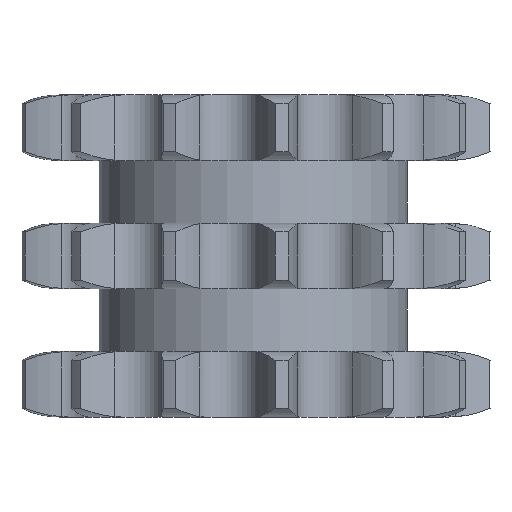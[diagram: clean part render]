
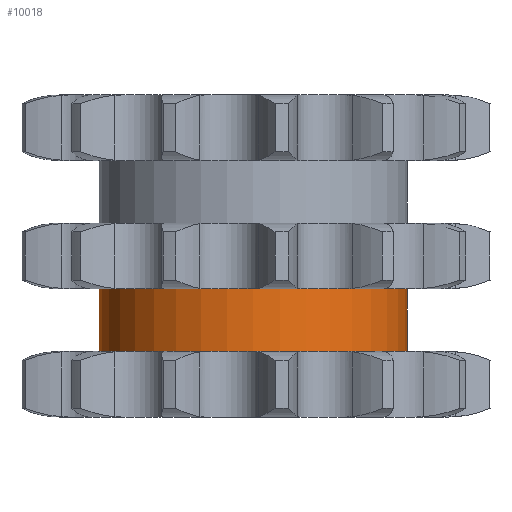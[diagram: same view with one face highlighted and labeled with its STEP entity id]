
A CAD part, left-side view. The second image highlights one B-rep face of the part: STEP entity #10018.
In plain terms, the highlighted cylindrical face has radius 38.068 mm (diameter 76.136 mm), a partial arc.
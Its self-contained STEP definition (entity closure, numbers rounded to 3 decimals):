
#2405=DIRECTION('',(0.,0.,-1.));
#2406=VECTOR('',#2405,15.5);
#2407=CARTESIAN_POINT('',(0.,38.068,-8.1));
#2408=LINE('',#2407,#2406);
#2412=CARTESIAN_POINT('',(0.,0.,-8.1));
#2413=DIRECTION('',(0.,0.,1.));
#2414=DIRECTION('',(0.,1.,0.));
#2415=AXIS2_PLACEMENT_3D('',#2412,#2413,#2414);
#2420=DIRECTION('',(0.,0.,-1.));
#2421=VECTOR('',#2420,15.5);
#2422=CARTESIAN_POINT('',(0.,-38.068,-8.1));
#2423=LINE('',#2422,#2421);
#2427=CARTESIAN_POINT('',(0.,0.,-23.6));
#2428=DIRECTION('',(0.,0.,1.));
#2429=DIRECTION('',(0.,1.,0.));
#2430=AXIS2_PLACEMENT_3D('',#2427,#2428,#2429);
#7482=CARTESIAN_POINT('',(0.,38.068,-8.1));
#7483=CARTESIAN_POINT('',(0.,38.068,-23.6));
#7484=VERTEX_POINT('',#7482);
#7485=VERTEX_POINT('',#7483);
#7486=CARTESIAN_POINT('',(0.,-38.068,-8.1));
#7487=CARTESIAN_POINT('',(0.,-38.068,-23.6));
#7488=VERTEX_POINT('',#7486);
#7489=VERTEX_POINT('',#7487);
#10006=CARTESIAN_POINT('',(0.,0.,25.96));
#10007=DIRECTION('',(0.,0.,-1.));
#10008=DIRECTION('',(0.,-1.,0.));
#10009=AXIS2_PLACEMENT_3D('',#10006,#10007,#10008);
#10010=CYLINDRICAL_SURFACE('',#10009,38.068);
#10011=ORIENTED_EDGE('',*,*,#9996,.F.);
#10012=ORIENTED_EDGE('',*,*,#9986,.T.);
#10013=ORIENTED_EDGE('',*,*,#10000,.T.);
#10015=ORIENTED_EDGE('',*,*,#10014,.F.);
#10016=EDGE_LOOP('',(#10011,#10012,#10013,#10015));
#10017=FACE_OUTER_BOUND('',#10016,.F.);
#10018=ADVANCED_FACE('',(#10017),#10010,.T.);
#2416=CIRCLE('',#2415,38.068);
#2431=CIRCLE('',#2430,38.068);
#9986=EDGE_CURVE('',#7484,#7488,#2416,.T.);
#9996=EDGE_CURVE('',#7484,#7485,#2408,.T.);
#10000=EDGE_CURVE('',#7488,#7489,#2423,.T.);
#10014=EDGE_CURVE('',#7485,#7489,#2431,.T.);
